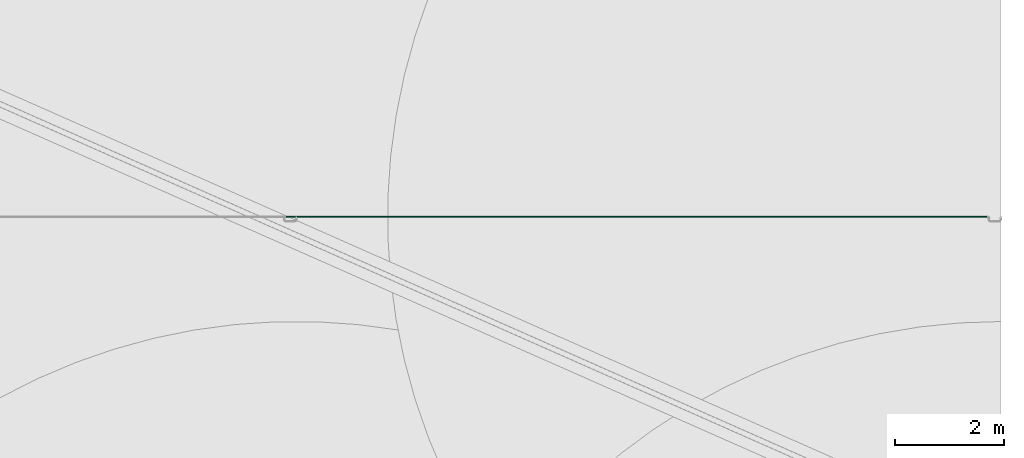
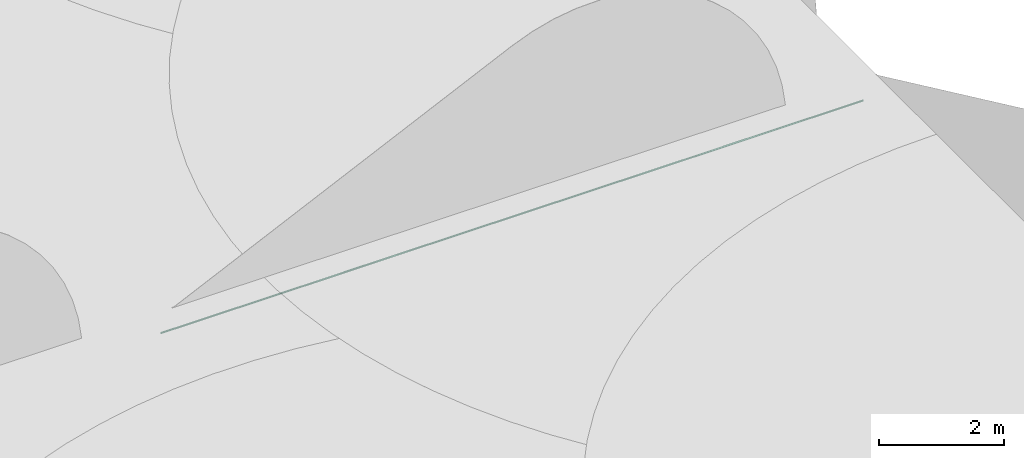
# One storey, part 34 of 166: 1 flow segment.
"""IFC2X3 building model written with IfcOpenShell, lengths in metres."""

from ifc_helpers import new_model, entity, si_unit, converted_unit, direction, frame, origin, origin_2d_with_axis, place, context, subcontext, project, spatial, circle, extrude, type_object, element, save


model = new_model("IFC2X3")

# Units and contexts
model_context = context("Model", 3, precision=1e-05, world=origin(), true_north=direction((6.123233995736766e-17, 1.0)))
body_context = subcontext(model_context, "Body", "Model", "MODEL_VIEW")
ifc_project = project(units=[si_unit("LENGTHUNIT", "METRE"), converted_unit("PLANEANGLEUNIT", "DEGREE", entity("IfcPlaneAngleMeasure", 0.017453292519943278), si_unit("PLANEANGLEUNIT", "RADIAN"), dimensions=[0, 0, 0, 0, 0, 0, 0]), si_unit("AREAUNIT", "SQUARE_METRE")], contexts=[model_context])

# Site, building, storey
site_placement = place(None, origin())
site = spatial("IfcSite", under=ifc_project, at=site_placement, Name="Default", CompositionType="ELEMENT")
building_placement = place(site_placement, origin())
building = spatial("IfcBuilding", under=site, at=building_placement, Name="CASA DE ACOLHIDA PARA IDOSOS", CompositionType="ELEMENT")
storey_placement = place(building_placement, frame((0.0, 0.0, -1.7499999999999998)))
storey = spatial("IfcBuildingStorey", under=building, at=storey_placement, Name="IMPLANTAÇÃO DRENAGEM", CompositionType="ELEMENT", Elevation=-1.7499999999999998)

# Flow segment
pipe_segment_type = type_object("IfcPipeSegmentType", Name="Tipos de tubos:AF_Tubo Marrom Soldável", PredefinedType="NOTDEFINED")
flow_segment_placement = place(storey_placement, origin())
element("IfcFlowSegment", 1, at=flow_segment_placement, inside=storey, type_object=pipe_segment_type, Name="Tipos de tubos:AF_Tubo Marrom Soldável", ObjectType="Tipos de tubos:AF_Tubo Marrom Soldável", context=body_context, shape_type="SweptSolid", body=[
    extrude(circle(Radius=0.0125, at=origin_2d_with_axis()), frame((33.02495110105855, 9.654942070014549, -0.19999999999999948), z_axis=(1.0, 0.0, 0.0), x_axis=(0.0, -1.0, 0.0)), (0.0, 0.0, 1.0), 12.9336),
])

save(model, "model.ifc")
